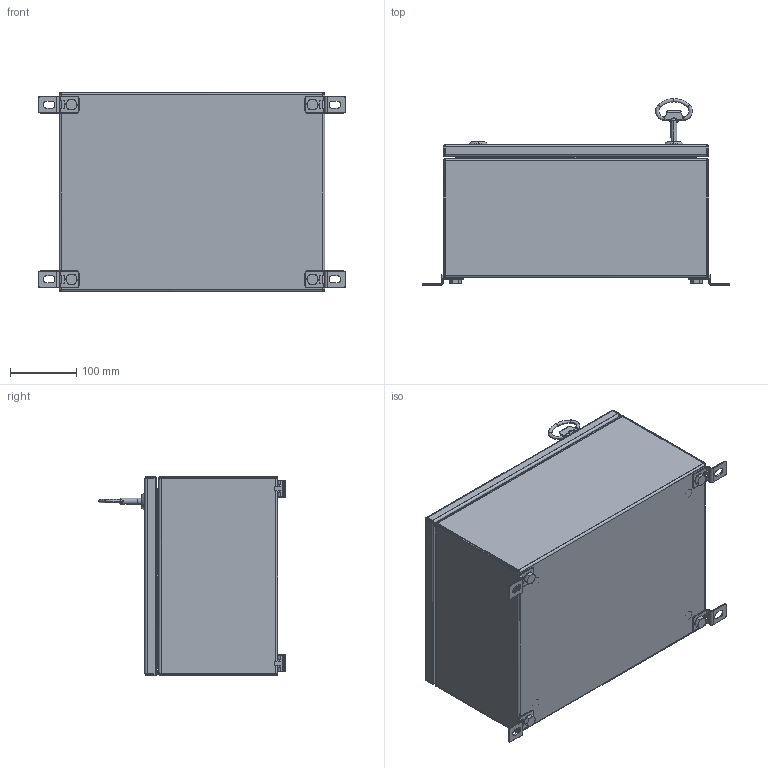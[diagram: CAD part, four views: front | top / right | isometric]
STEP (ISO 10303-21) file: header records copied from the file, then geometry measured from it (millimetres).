
FILE_DESCRIPTION (( 'STEP AP203' ), '1' );
FILE_NAME ('SB-36-02.step', '2017-06-01T15:50:59', ( '' ), ( '' ), 'SwSTEP 2.0', 'SolidWorks 2016', '' );
FILE_SCHEMA (( 'CONFIG_CONTROL_DESIGN' ));
Length unit declared in the file: inch
Products named in the file (30): e-ring external retaining ring_am_SB-RR-01; W-005; SB-PIN-01; finished circular plain washer_jis_W-006; SB-xxL_SB-01L-01; hex nut style 1_am_N-004; Copy of Copy of QT-01^SB-xxLB; spring lock washer_2_jis_W-009; spring lock washer_2_jis_W-007; SB-xxC_SB-35C-02; SB-xxP_SB-35P; SB-xxLB_SB-01LB-01; hex cap screw_am_SCREWS-040; spring lock washer_2_jis_W-004; hex washer screw_ai_SI-HWMS 0.25-20x0.5x0.5-C; hex nut style 1_am_N-003; SB-xxB_SB-36B-02; SB-01LN-01; SB-HP-01; SB-xxFK-01_SB-01FK-01; SB-GK-01; hex nut style 1_am_N-002; SB-01F-01; flat washer narrow_am_W-003; Copy of Part1^SB-xxLB; SB-36-02; finished circular plain washer_jis_W-008; SB-KEY-01; SB-WIRE-01; Copy of SB-LATCH BODY-01^SB-xxLB
Assembly tree (67 placements, depth 4):
  SB-36-02
    SB-xxB_SB-36B-02
    SB-xxC_SB-35C-02
    SB-xxL_SB-01L-01  x2
      SB-xxLB_SB-01LB-01
        Copy of Copy of QT-01^SB-xxLB
        Copy of SB-LATCH BODY-01^SB-xxLB
        hex washer screw_ai_SI-HWMS 0.25-20x0.5x0.5-C
        Copy of Part1^SB-xxLB
      SB-01LN-01
    SB-PIN-01  x2
    e-ring external retaining ring_am_SB-RR-01  x2
    SB-xxFK-01_SB-01FK-01
      SB-01F-01  x4
      hex cap screw_am_SCREWS-040  x4
      hex nut style 1_am_N-003  x4
      W-005  x4
      finished circular plain washer_jis_W-006  x4
      spring lock washer_2_jis_W-007  x4
    SB-GK-01
      SB-KEY-01
      SB-WIRE-01
      flat washer narrow_am_W-003  x4
      spring lock washer_2_jis_W-004  x2
      hex nut style 1_am_N-002  x2
    SB-xxP_SB-35P
    finished circular plain washer_jis_W-008  x4
    spring lock washer_2_jis_W-009  x4
    hex nut style 1_am_N-004  x4
    SB-HP-01  x4
Bounding box: 462.47 x 281 x 300 mm (x, y, z)
Volume: 1299674.2 mm3; surface area: 1441810.9 mm2
Topology: 84 solids, 84 shells, 2356 faces, 5266 edges, 3067 vertices
Faces by surface type: plane 879, cylinder 820, cone 264, torus 205, bspline 146, sphere 42
Entity records: 50857 total; most frequent: CARTESIAN_POINT 15229, DIRECTION 6673, ORIENTED_EDGE 6434, EDGE_CURVE 3217, AXIS2_PLACEMENT_3D 2553, VERTEX_POINT 1879, LINE 1567, VECTOR 1567
